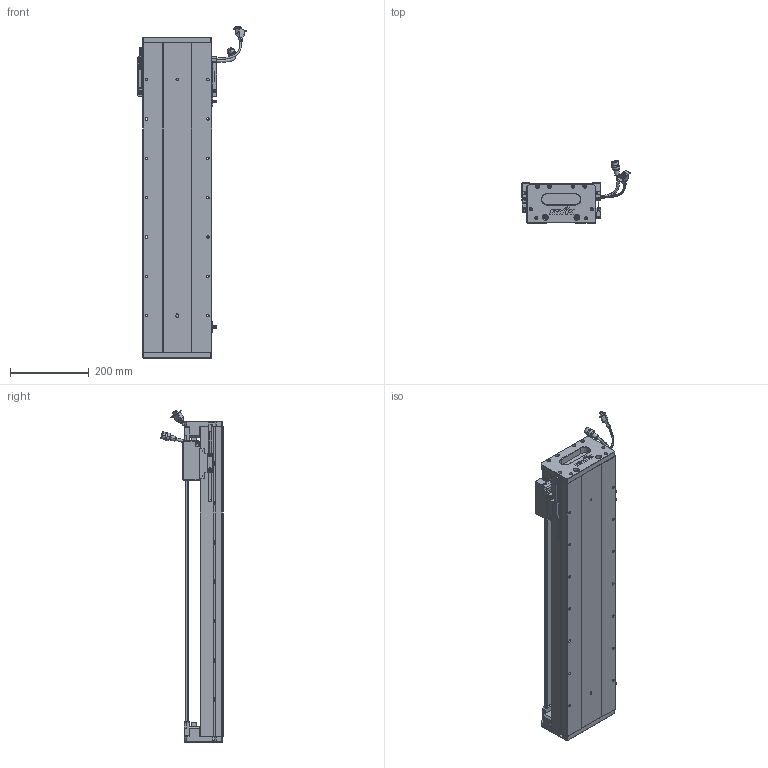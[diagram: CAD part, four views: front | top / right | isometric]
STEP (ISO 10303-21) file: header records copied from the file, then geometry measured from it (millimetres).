
FILE_DESCRIPTION (( 'STEP AP203' ), '1' );
FILE_NAME ('Z1-RY170D-1-L500-B-K.SLDASM_0600.step', '2021-05-17T08:51:44', ( '盈信电脑' ), ( '东莞市道滘镇水果街19号' ), 'SwSTEP 2.0', 'SolidWorks 2016', '' );
FILE_SCHEMA (( 'CONFIG_CONTROL_DESIGN' ));
Length unit declared in the file: millimetre
Products named in the file (36): Z1-RY170-L500耀郪菁釱_0600; 140雄赽晤鎢ん堤盄; SCALE-Part-2; SCREW-M1.6-2; SCREW-M1.6; HARNESS; SCREW-M1.6-3; HARNESS-Part-1; SHIELDPLATE; Z1-RY170-L500詩湍145mm遵_0600; 140蚥薯蝶輸; PBU_SHEET; SCALE; 080黍杅芛假蚾釱21遴; RY170直线电机感应器672光电感应片; Z1-RY170D-1-L500-B-K.SLDASM_0600; SCREW-M1.7; COVER; SCALE-Part-1; SEAL; Z1-RY170臏賑輸(21遴); HOLDER0; Z-RY170詩湍奻揤裔; LABEL; Z-RY170詩湍狟揤裔; 覜茼ん672; Z-170詩湍傷裔啣; PSLH080_PSLF2; SCREW-M1.6-1; COVER-Part-1; SCREW-M1.7-1; LABEL-Part-1; SEAL-Part-1; 170-Z-臏賑輸盄裔(21遴); 榋妏寠巭燃_暯_M2_2; HARNESS-Part-2
Assembly tree (41 placements, depth 4):
  Z1-RY170D-1-L500-B-K.SLDASM_0600
    Z1-RY170-L500耀郪菁釱_0600
    RY170直线电机感应器672光电感应片
    Z1-RY170臏賑輸(21遴)
    覜茼ん672  x3
    PSLH080_PSLF2
      SCALE
        SCALE-Part-1
        SCALE-Part-2
      HARNESS
        HARNESS-Part-1
        HARNESS-Part-2
      LABEL
        LABEL-Part-1
      COVER
        COVER-Part-1
      SEAL
        SEAL-Part-1
      榋妏寠巭燃_暯_M2_2
      SHIELDPLATE
      SCREW-M1.7
      SCREW-M1.7-1
      PBU_SHEET
      SCREW-M1.6
      SCREW-M1.6-1
      SCREW-M1.6-2
      SCREW-M1.6-3
      HOLDER0
    080黍杅芛假蚾釱21遴
    Z1-RY170-L500詩湍145mm遵_0600
    Z-170詩湍傷裔啣  x2
    Z-RY170詩湍奻揤裔  x2
    Z-RY170詩湍狟揤裔  x2
    140蚥薯蝶輸  x2
    170-Z-臏賑輸盄裔(21遴)
    140雄赽晤鎢ん堤盄
Bounding box: 275.34 x 158.11 x 843.73 mm (x, y, z)
Volume: 4760988 mm3; surface area: 1174091.1 mm2
Topology: 36 solids, 36 shells, 2740 faces, 7239 edges, 4559 vertices
Faces by surface type: cylinder 1190, plane 1108, cone 320, torus 69, bspline 53
Entity records: 77927 total; most frequent: CARTESIAN_POINT 19100, DIRECTION 11465, ORIENTED_EDGE 11410, EDGE_CURVE 5705, AXIS2_PLACEMENT_3D 4166, VERTEX_POINT 3677, VECTOR 3133, LINE 3133
